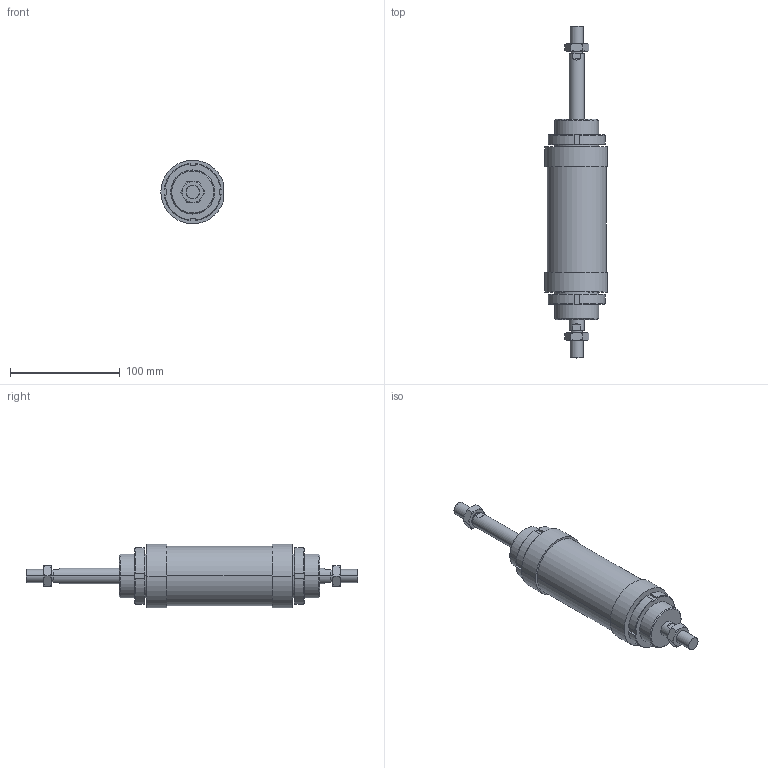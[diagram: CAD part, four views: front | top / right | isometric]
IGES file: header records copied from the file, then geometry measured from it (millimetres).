
Global section: file name: No Iges File Name specified; native system: AutoDesk Inventor R6.0; preprocessor: AutoDesk Inventor Iges Exporter R6.0; author: No Author specified; organization: No Organization specified; date: 20030403.072950; units: millimetre
Bounding box: 56.6 x 302 x 57.85 mm (x, y, z)
Volume: 409829.2 mm3; surface area: 67661.8 mm2
Topology: 6 solids, 6 shells, 182 faces, 424 edges, 264 vertices
Faces by surface type: plane 66, cone 52, bspline 30, cylinder 28, revolution 6
